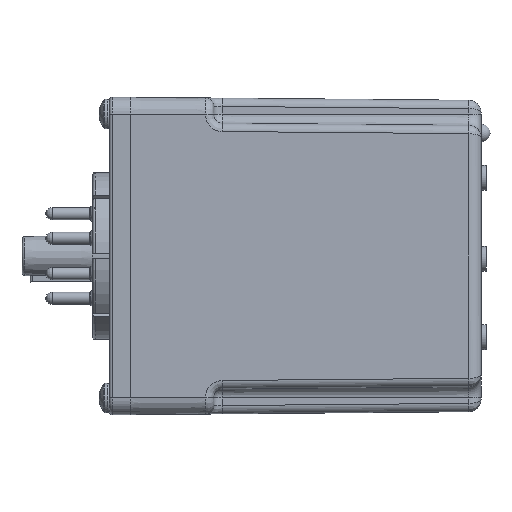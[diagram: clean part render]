
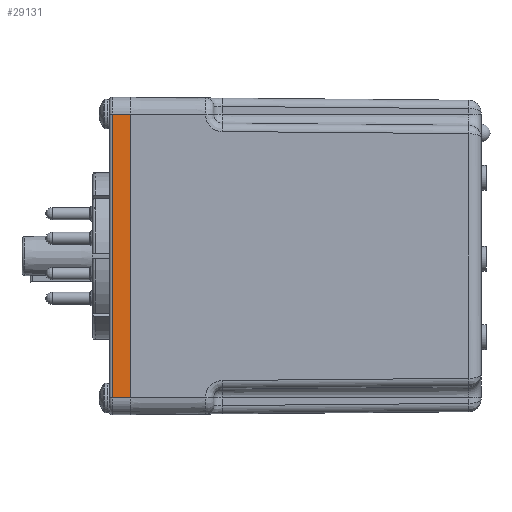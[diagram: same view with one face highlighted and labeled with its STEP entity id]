
A CAD part, left-side view. The second image highlights one B-rep face of the part: STEP entity #29131.
In plain terms, the highlighted planar face has unit normal (-1, 0, 0).
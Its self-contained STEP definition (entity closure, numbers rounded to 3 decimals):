
#8993 = PLANE('',#8994);
#8994 = AXIS2_PLACEMENT_3D('',#8995,#8996,#8997);
#8995 = CARTESIAN_POINT('',(-22.225,11.887,-30.163));
#8996 = DIRECTION('',(0.,1.,0.));
#8997 = DIRECTION('',(1.,0.,-0.));
#15916 = VERTEX_POINT('',#15917);
#15917 = CARTESIAN_POINT('',(-22.225,11.887,26.988));
#15936 = CYLINDRICAL_SURFACE('',#15937,3.175);
#15937 = AXIS2_PLACEMENT_3D('',#15938,#15939,#15940);
#15938 = CARTESIAN_POINT('',(-19.05,11.887,26.988));
#15939 = DIRECTION('',(0.,1.,0.));
#15940 = DIRECTION('',(0.,0.,-1.));
#15948 = EDGE_CURVE('',#15949,#15916,#15951,.T.);
#15949 = VERTEX_POINT('',#15950);
#15950 = CARTESIAN_POINT('',(-22.225,11.887,-26.988));
#15951 = SURFACE_CURVE('',#15952,(#15956,#15963),.PCURVE_S1.);
#15952 = LINE('',#15953,#15954);
#15953 = CARTESIAN_POINT('',(-22.225,11.887,-30.163));
#15954 = VECTOR('',#15955,1.);
#15955 = DIRECTION('',(0.,-0.,1.));
#15956 = PCURVE('',#8993,#15957);
#15957 = DEFINITIONAL_REPRESENTATION('',(#15958),#15962);
#15958 = LINE('',#15959,#15960);
#15959 = CARTESIAN_POINT('',(0.,0.));
#15960 = VECTOR('',#15961,1.);
#15961 = DIRECTION('',(0.,-1.));
#15962 = ( GEOMETRIC_REPRESENTATION_CONTEXT(2) 
PARAMETRIC_REPRESENTATION_CONTEXT() REPRESENTATION_CONTEXT('2D SPACE',''
  ) );
#15963 = PCURVE('',#15964,#15969);
#15964 = PLANE('',#15965);
#15965 = AXIS2_PLACEMENT_3D('',#15966,#15967,#15968);
#15966 = CARTESIAN_POINT('',(-22.225,11.887,-30.163));
#15967 = DIRECTION('',(1.,0.,0.));
#15968 = DIRECTION('',(0.,0.,-1.));
#15969 = DEFINITIONAL_REPRESENTATION('',(#15970),#15974);
#15970 = LINE('',#15971,#15972);
#15971 = CARTESIAN_POINT('',(0.,0.));
#15972 = VECTOR('',#15973,1.);
#15973 = DIRECTION('',(-1.,0.));
#15974 = ( GEOMETRIC_REPRESENTATION_CONTEXT(2) 
PARAMETRIC_REPRESENTATION_CONTEXT() REPRESENTATION_CONTEXT('2D SPACE',''
  ) );
#15997 = CYLINDRICAL_SURFACE('',#15998,3.175);
#15998 = AXIS2_PLACEMENT_3D('',#15999,#16000,#16001);
#15999 = CARTESIAN_POINT('',(-19.05,15.85,-26.988));
#16000 = DIRECTION('',(0.,-1.,0.));
#16001 = DIRECTION('',(0.,0.,1.));
#24210 = CYLINDRICAL_SURFACE('',#24211,0.508);
#24211 = AXIS2_PLACEMENT_3D('',#24212,#24213,#24214);
#24212 = CARTESIAN_POINT('',(-21.717,15.342,-30.163));
#24213 = DIRECTION('',(0.,0.,1.));
#24214 = DIRECTION('',(1.,0.,0.));
#29131 = ADVANCED_FACE('',(#29132),#15964,.F.);
#29132 = FACE_BOUND('',#29133,.T.);
#29133 = EDGE_LOOP('',(#29134,#29157,#29180,#29201));
#29134 = ORIENTED_EDGE('',*,*,#29135,.T.);
#29135 = EDGE_CURVE('',#15916,#29136,#29138,.T.);
#29136 = VERTEX_POINT('',#29137);
#29137 = CARTESIAN_POINT('',(-22.225,15.342,26.988));
#29138 = SURFACE_CURVE('',#29139,(#29143,#29150),.PCURVE_S1.);
#29139 = LINE('',#29140,#29141);
#29140 = CARTESIAN_POINT('',(-22.225,11.887,26.988));
#29141 = VECTOR('',#29142,1.);
#29142 = DIRECTION('',(0.,1.,0.));
#29143 = PCURVE('',#15964,#29144);
#29144 = DEFINITIONAL_REPRESENTATION('',(#29145),#29149);
#29145 = LINE('',#29146,#29147);
#29146 = CARTESIAN_POINT('',(-57.15,0.));
#29147 = VECTOR('',#29148,1.);
#29148 = DIRECTION('',(0.,1.));
#29149 = ( GEOMETRIC_REPRESENTATION_CONTEXT(2) 
PARAMETRIC_REPRESENTATION_CONTEXT() REPRESENTATION_CONTEXT('2D SPACE',''
  ) );
#29150 = PCURVE('',#15936,#29151);
#29151 = DEFINITIONAL_REPRESENTATION('',(#29152),#29156);
#29152 = LINE('',#29153,#29154);
#29153 = CARTESIAN_POINT('',(1.571,0.));
#29154 = VECTOR('',#29155,1.);
#29155 = DIRECTION('',(0.,1.));
#29156 = ( GEOMETRIC_REPRESENTATION_CONTEXT(2) 
PARAMETRIC_REPRESENTATION_CONTEXT() REPRESENTATION_CONTEXT('2D SPACE',''
  ) );
#29157 = ORIENTED_EDGE('',*,*,#29158,.T.);
#29158 = EDGE_CURVE('',#29136,#29159,#29161,.T.);
#29159 = VERTEX_POINT('',#29160);
#29160 = CARTESIAN_POINT('',(-22.225,15.342,-26.988));
#29161 = SURFACE_CURVE('',#29162,(#29166,#29173),.PCURVE_S1.);
#29162 = LINE('',#29163,#29164);
#29163 = CARTESIAN_POINT('',(-22.225,15.342,-30.163));
#29164 = VECTOR('',#29165,1.);
#29165 = DIRECTION('',(0.,0.,-1.));
#29166 = PCURVE('',#15964,#29167);
#29167 = DEFINITIONAL_REPRESENTATION('',(#29168),#29172);
#29168 = LINE('',#29169,#29170);
#29169 = CARTESIAN_POINT('',(0.,3.454));
#29170 = VECTOR('',#29171,1.);
#29171 = DIRECTION('',(1.,0.));
#29172 = ( GEOMETRIC_REPRESENTATION_CONTEXT(2) 
PARAMETRIC_REPRESENTATION_CONTEXT() REPRESENTATION_CONTEXT('2D SPACE',''
  ) );
#29173 = PCURVE('',#24210,#29174);
#29174 = DEFINITIONAL_REPRESENTATION('',(#29175),#29179);
#29175 = LINE('',#29176,#29177);
#29176 = CARTESIAN_POINT('',(3.142,0.));
#29177 = VECTOR('',#29178,1.);
#29178 = DIRECTION('',(0.,-1.));
#29179 = ( GEOMETRIC_REPRESENTATION_CONTEXT(2) 
PARAMETRIC_REPRESENTATION_CONTEXT() REPRESENTATION_CONTEXT('2D SPACE',''
  ) );
#29180 = ORIENTED_EDGE('',*,*,#29181,.T.);
#29181 = EDGE_CURVE('',#29159,#15949,#29182,.T.);
#29182 = SURFACE_CURVE('',#29183,(#29187,#29194),.PCURVE_S1.);
#29183 = LINE('',#29184,#29185);
#29184 = CARTESIAN_POINT('',(-22.225,11.887,-26.988));
#29185 = VECTOR('',#29186,1.);
#29186 = DIRECTION('',(0.,-1.,0.));
#29187 = PCURVE('',#15964,#29188);
#29188 = DEFINITIONAL_REPRESENTATION('',(#29189),#29193);
#29189 = LINE('',#29190,#29191);
#29190 = CARTESIAN_POINT('',(-3.175,0.));
#29191 = VECTOR('',#29192,1.);
#29192 = DIRECTION('',(0.,-1.));
#29193 = ( GEOMETRIC_REPRESENTATION_CONTEXT(2) 
PARAMETRIC_REPRESENTATION_CONTEXT() REPRESENTATION_CONTEXT('2D SPACE',''
  ) );
#29194 = PCURVE('',#15997,#29195);
#29195 = DEFINITIONAL_REPRESENTATION('',(#29196),#29200);
#29196 = LINE('',#29197,#29198);
#29197 = CARTESIAN_POINT('',(1.571,3.962));
#29198 = VECTOR('',#29199,1.);
#29199 = DIRECTION('',(0.,1.));
#29200 = ( GEOMETRIC_REPRESENTATION_CONTEXT(2) 
PARAMETRIC_REPRESENTATION_CONTEXT() REPRESENTATION_CONTEXT('2D SPACE',''
  ) );
#29201 = ORIENTED_EDGE('',*,*,#15948,.T.);
